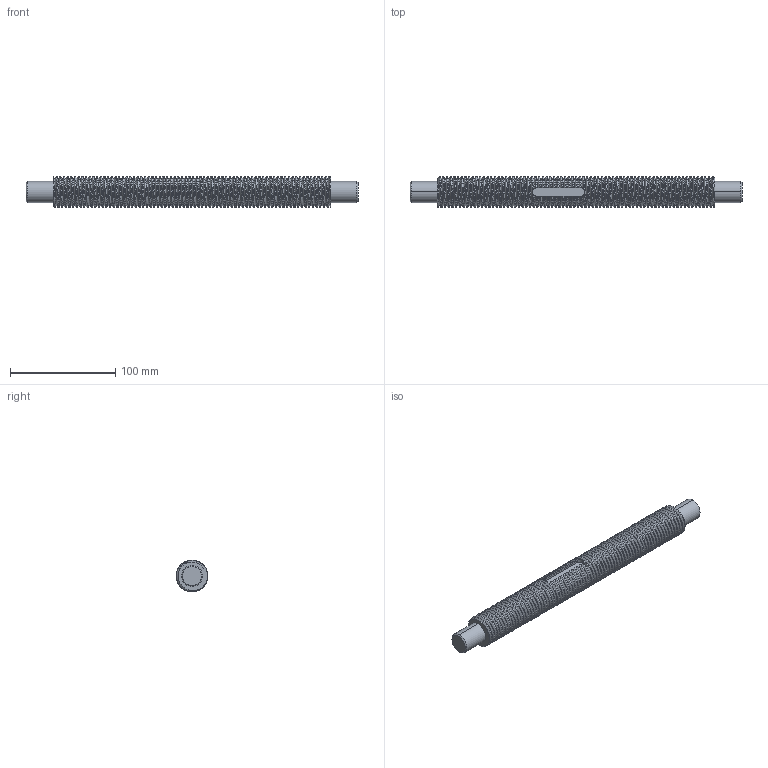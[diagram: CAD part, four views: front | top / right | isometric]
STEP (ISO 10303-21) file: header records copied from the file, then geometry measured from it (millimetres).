
FILE_DESCRIPTION (( 'STEP AP203' ), '1' );
FILE_NAME ('084.812.024.STEP', '2018-03-12T08:12:10', ( '' ), ( '' ), 'SwSTEP 2.0', 'SolidWorks 2016', '' );
FILE_SCHEMA (( 'CONFIG_CONTROL_DESIGN' ));
Products named in the file (1): 084.812.024
Bounding box: 315 x 29.95 x 29.95 mm (x, y, z)
Volume: 180408.1 mm3; surface area: 40748.7 mm2
Topology: 1 solids, 1 shells, 215 faces, 629 edges, 418 vertices
Faces by surface type: cylinder 158, bspline 46, plane 7, cone 4
Entity records: 96362 total; most frequent: CARTESIAN_POINT 91952, ORIENTED_EDGE 1258, EDGE_CURVE 629, DIRECTION 549, VERTEX_POINT 418, EDGE_LOOP 217, ADVANCED_FACE 215, FACE_OUTER_BOUND 215
